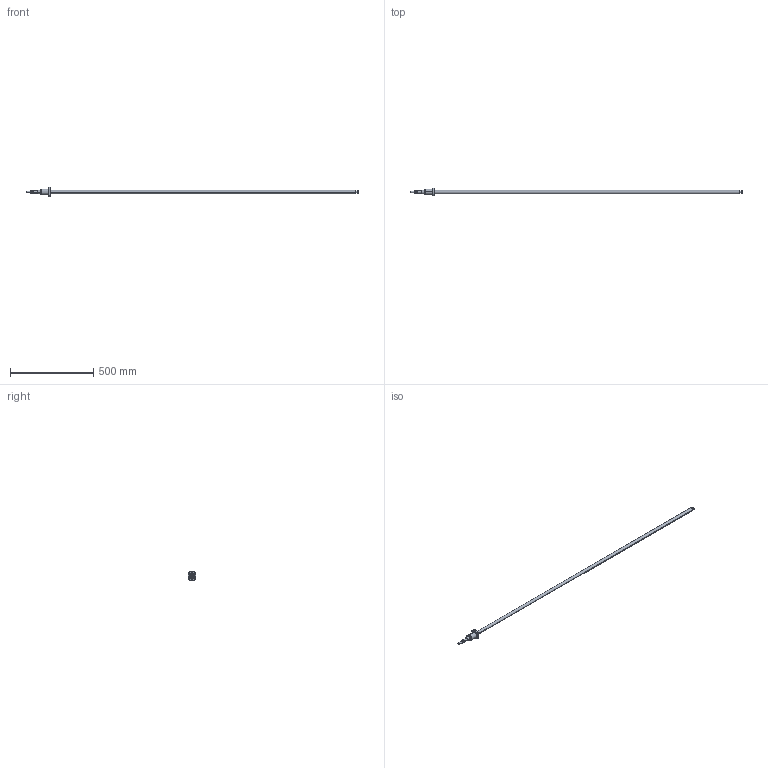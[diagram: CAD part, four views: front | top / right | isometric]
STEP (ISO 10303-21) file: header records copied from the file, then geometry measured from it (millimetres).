
FILE_DESCRIPTION (( 'STEP AP214' ), '1' );
FILE_NAME ('7.3009 STSR2010-DFC7-2000-P1-0.05.STEP', '2026-03-10T08:27:06', ( '' ), ( '' ), 'SwSTEP 2.0', 'SolidWorks 2025', '' );
FILE_SCHEMA (( 'AUTOMOTIVE_DESIGN' ));
Length unit declared in the file: millimetre
Products named in the file (3): 7.3034 TSR2010-FC7; 7.3009 STSR2010-DFC7-2000-P1-0.05; 7.3105 STSR2010C1D
Assembly tree (2 placements, depth 2):
  7.3009 STSR2010-DFC7-2000-P1-0.05
    7.3034 TSR2010-FC7
    7.3105 STSR2010C1D
Bounding box: 2000 x 44 x 58 mm (x, y, z)
Volume: 653995.3 mm3; surface area: 143751.5 mm2
Topology: 4 solids, 4 shells, 170 faces, 443 edges, 292 vertices
Faces by surface type: cylinder 86, plane 38, bspline 29, cone 9, torus 8
Entity records: 16916 total; most frequent: CARTESIAN_POINT 12990, ORIENTED_EDGE 886, DIRECTION 663, EDGE_CURVE 443, VERTEX_POINT 292, AXIS2_PLACEMENT_3D 255, EDGE_LOOP 199, FACE_OUTER_BOUND 170
